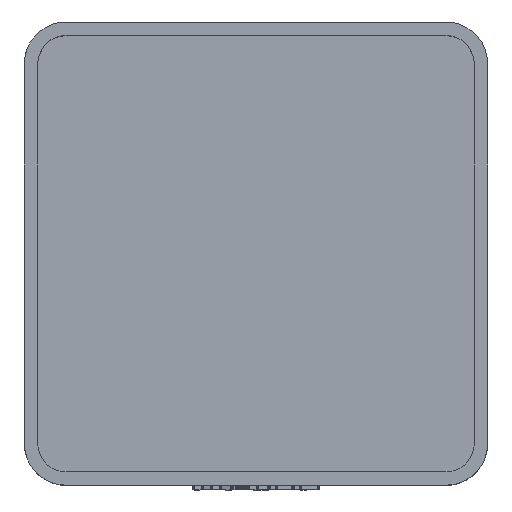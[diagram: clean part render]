
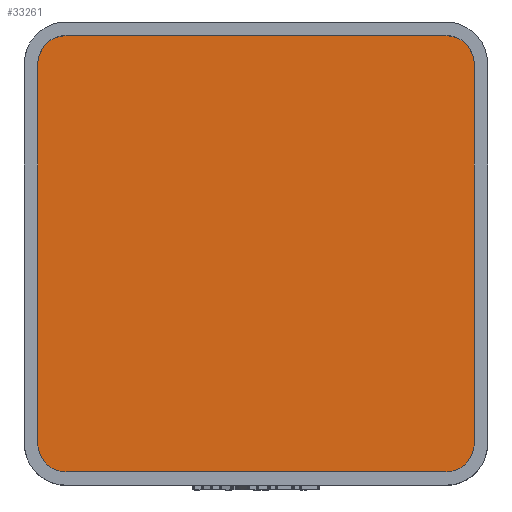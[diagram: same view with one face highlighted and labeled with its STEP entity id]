
A CAD part, top view. The second image highlights one B-rep face of the part: STEP entity #33261.
In plain terms, the highlighted planar face has unit normal (0, 0, 1).
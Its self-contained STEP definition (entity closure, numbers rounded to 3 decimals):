
#1442 = PLANE('',#1443);
#1443 = AXIS2_PLACEMENT_3D('',#1444,#1445,#1446);
#1444 = CARTESIAN_POINT('',(-19.55,-17.,4.75));
#1445 = DIRECTION('',(-1.,0.,0.));
#1446 = DIRECTION('',(0.,1.,0.));
#1474 = CYLINDRICAL_SURFACE('',#1475,2.55);
#1475 = AXIS2_PLACEMENT_3D('',#1476,#1477,#1478);
#1476 = CARTESIAN_POINT('',(-17.,17.,4.75));
#1477 = DIRECTION('',(-0.,-0.,-1.));
#1478 = DIRECTION('',(1.,0.,0.));
#1501 = PLANE('',#1502);
#1502 = AXIS2_PLACEMENT_3D('',#1503,#1504,#1505);
#1503 = CARTESIAN_POINT('',(-17.,19.55,4.75));
#1504 = DIRECTION('',(0.,1.,0.));
#1505 = DIRECTION('',(1.,0.,0.));
#1533 = CYLINDRICAL_SURFACE('',#1534,2.55);
#1534 = AXIS2_PLACEMENT_3D('',#1535,#1536,#1537);
#1535 = CARTESIAN_POINT('',(17.,17.,4.75));
#1536 = DIRECTION('',(-0.,-0.,-1.));
#1537 = DIRECTION('',(1.,0.,0.));
#1560 = PLANE('',#1561);
#1561 = AXIS2_PLACEMENT_3D('',#1562,#1563,#1564);
#1562 = CARTESIAN_POINT('',(19.55,-17.,4.75));
#1563 = DIRECTION('',(-1.,0.,0.));
#1564 = DIRECTION('',(0.,1.,0.));
#1592 = CYLINDRICAL_SURFACE('',#1593,2.55);
#1593 = AXIS2_PLACEMENT_3D('',#1594,#1595,#1596);
#1594 = CARTESIAN_POINT('',(17.,-17.,4.75));
#1595 = DIRECTION('',(-0.,-0.,-1.));
#1596 = DIRECTION('',(1.,0.,0.));
#1619 = PLANE('',#1620);
#1620 = AXIS2_PLACEMENT_3D('',#1621,#1622,#1623);
#1621 = CARTESIAN_POINT('',(-17.,-19.55,4.75));
#1622 = DIRECTION('',(0.,1.,0.));
#1623 = DIRECTION('',(1.,0.,0.));
#1649 = CYLINDRICAL_SURFACE('',#1650,2.55);
#1650 = AXIS2_PLACEMENT_3D('',#1651,#1652,#1653);
#1651 = CARTESIAN_POINT('',(-17.,-17.,4.75));
#1652 = DIRECTION('',(-0.,-0.,-1.));
#1653 = DIRECTION('',(1.,0.,0.));
#12553 = EDGE_CURVE('',#12554,#12556,#12558,.T.);
#12554 = VERTEX_POINT('',#12555);
#12555 = CARTESIAN_POINT('',(-19.55,-17.,4.75));
#12556 = VERTEX_POINT('',#12557);
#12557 = CARTESIAN_POINT('',(-19.55,17.,4.75));
#12558 = SURFACE_CURVE('',#12559,(#12563,#12570),.PCURVE_S1.);
#12559 = LINE('',#12560,#12561);
#12560 = CARTESIAN_POINT('',(-19.55,0.,4.75));
#12561 = VECTOR('',#12562,1.);
#12562 = DIRECTION('',(0.,1.,0.));
#12563 = PCURVE('',#1442,#12564);
#12564 = DEFINITIONAL_REPRESENTATION('',(#12565),#12569);
#12565 = LINE('',#12566,#12567);
#12566 = CARTESIAN_POINT('',(17.,0.));
#12567 = VECTOR('',#12568,1.);
#12568 = DIRECTION('',(1.,0.));
#12569 = ( GEOMETRIC_REPRESENTATION_CONTEXT(2) 
PARAMETRIC_REPRESENTATION_CONTEXT() REPRESENTATION_CONTEXT('2D SPACE',''
  ) );
#12570 = PCURVE('',#12571,#12576);
#12571 = PLANE('',#12572);
#12572 = AXIS2_PLACEMENT_3D('',#12573,#12574,#12575);
#12573 = CARTESIAN_POINT('',(0.,0.,4.75
    ));
#12574 = DIRECTION('',(0.,0.,1.));
#12575 = DIRECTION('',(1.,0.,-0.));
#12576 = DEFINITIONAL_REPRESENTATION('',(#12577),#12581);
#12577 = LINE('',#12578,#12579);
#12578 = CARTESIAN_POINT('',(-19.55,0.));
#12579 = VECTOR('',#12580,1.);
#12580 = DIRECTION('',(0.,1.));
#12581 = ( GEOMETRIC_REPRESENTATION_CONTEXT(2) 
PARAMETRIC_REPRESENTATION_CONTEXT() REPRESENTATION_CONTEXT('2D SPACE',''
  ) );
#12629 = EDGE_CURVE('',#12554,#12630,#12632,.T.);
#12630 = VERTEX_POINT('',#12631);
#12631 = CARTESIAN_POINT('',(-17.,-19.55,4.75));
#12632 = SURFACE_CURVE('',#12633,(#12638,#12645),.PCURVE_S1.);
#12633 = CIRCLE('',#12634,2.55);
#12634 = AXIS2_PLACEMENT_3D('',#12635,#12636,#12637);
#12635 = CARTESIAN_POINT('',(-17.,-17.,4.75));
#12636 = DIRECTION('',(0.,0.,1.));
#12637 = DIRECTION('',(1.,0.,0.));
#12638 = PCURVE('',#1649,#12639);
#12639 = DEFINITIONAL_REPRESENTATION('',(#12640),#12644);
#12640 = LINE('',#12641,#12642);
#12641 = CARTESIAN_POINT('',(-0.,0.));
#12642 = VECTOR('',#12643,1.);
#12643 = DIRECTION('',(-1.,0.));
#12644 = ( GEOMETRIC_REPRESENTATION_CONTEXT(2) 
PARAMETRIC_REPRESENTATION_CONTEXT() REPRESENTATION_CONTEXT('2D SPACE',''
  ) );
#12645 = PCURVE('',#12571,#12646);
#12646 = DEFINITIONAL_REPRESENTATION('',(#12647),#12651);
#12647 = CIRCLE('',#12648,2.55);
#12648 = AXIS2_PLACEMENT_2D('',#12649,#12650);
#12649 = CARTESIAN_POINT('',(-17.,-17.));
#12650 = DIRECTION('',(1.,0.));
#12651 = ( GEOMETRIC_REPRESENTATION_CONTEXT(2) 
PARAMETRIC_REPRESENTATION_CONTEXT() REPRESENTATION_CONTEXT('2D SPACE',''
  ) );
#12679 = EDGE_CURVE('',#12630,#12680,#12682,.T.);
#12680 = VERTEX_POINT('',#12681);
#12681 = CARTESIAN_POINT('',(17.,-19.55,4.75));
#12682 = SURFACE_CURVE('',#12683,(#12687,#12694),.PCURVE_S1.);
#12683 = LINE('',#12684,#12685);
#12684 = CARTESIAN_POINT('',(0.,-19.55,4.75));
#12685 = VECTOR('',#12686,1.);
#12686 = DIRECTION('',(1.,0.,0.));
#12687 = PCURVE('',#1619,#12688);
#12688 = DEFINITIONAL_REPRESENTATION('',(#12689),#12693);
#12689 = LINE('',#12690,#12691);
#12690 = CARTESIAN_POINT('',(17.,0.));
#12691 = VECTOR('',#12692,1.);
#12692 = DIRECTION('',(1.,0.));
#12693 = ( GEOMETRIC_REPRESENTATION_CONTEXT(2) 
PARAMETRIC_REPRESENTATION_CONTEXT() REPRESENTATION_CONTEXT('2D SPACE',''
  ) );
#12694 = PCURVE('',#12571,#12695);
#12695 = DEFINITIONAL_REPRESENTATION('',(#12696),#12700);
#12696 = LINE('',#12697,#12698);
#12697 = CARTESIAN_POINT('',(0.,-19.55));
#12698 = VECTOR('',#12699,1.);
#12699 = DIRECTION('',(1.,0.));
#12700 = ( GEOMETRIC_REPRESENTATION_CONTEXT(2) 
PARAMETRIC_REPRESENTATION_CONTEXT() REPRESENTATION_CONTEXT('2D SPACE',''
  ) );
#12728 = EDGE_CURVE('',#12680,#12729,#12731,.T.);
#12729 = VERTEX_POINT('',#12730);
#12730 = CARTESIAN_POINT('',(19.55,-17.,4.75));
#12731 = SURFACE_CURVE('',#12732,(#12737,#12744),.PCURVE_S1.);
#12732 = CIRCLE('',#12733,2.55);
#12733 = AXIS2_PLACEMENT_3D('',#12734,#12735,#12736);
#12734 = CARTESIAN_POINT('',(17.,-17.,4.75));
#12735 = DIRECTION('',(0.,0.,1.));
#12736 = DIRECTION('',(1.,0.,0.));
#12737 = PCURVE('',#1592,#12738);
#12738 = DEFINITIONAL_REPRESENTATION('',(#12739),#12743);
#12739 = LINE('',#12740,#12741);
#12740 = CARTESIAN_POINT('',(-0.,0.));
#12741 = VECTOR('',#12742,1.);
#12742 = DIRECTION('',(-1.,0.));
#12743 = ( GEOMETRIC_REPRESENTATION_CONTEXT(2) 
PARAMETRIC_REPRESENTATION_CONTEXT() REPRESENTATION_CONTEXT('2D SPACE',''
  ) );
#12744 = PCURVE('',#12571,#12745);
#12745 = DEFINITIONAL_REPRESENTATION('',(#12746),#12750);
#12746 = CIRCLE('',#12747,2.55);
#12747 = AXIS2_PLACEMENT_2D('',#12748,#12749);
#12748 = CARTESIAN_POINT('',(17.,-17.));
#12749 = DIRECTION('',(1.,0.));
#12750 = ( GEOMETRIC_REPRESENTATION_CONTEXT(2) 
PARAMETRIC_REPRESENTATION_CONTEXT() REPRESENTATION_CONTEXT('2D SPACE',''
  ) );
#12778 = EDGE_CURVE('',#12729,#12779,#12781,.T.);
#12779 = VERTEX_POINT('',#12780);
#12780 = CARTESIAN_POINT('',(19.55,17.,4.75));
#12781 = SURFACE_CURVE('',#12782,(#12786,#12793),.PCURVE_S1.);
#12782 = LINE('',#12783,#12784);
#12783 = CARTESIAN_POINT('',(19.55,0.,4.75));
#12784 = VECTOR('',#12785,1.);
#12785 = DIRECTION('',(0.,1.,0.));
#12786 = PCURVE('',#1560,#12787);
#12787 = DEFINITIONAL_REPRESENTATION('',(#12788),#12792);
#12788 = LINE('',#12789,#12790);
#12789 = CARTESIAN_POINT('',(17.,0.));
#12790 = VECTOR('',#12791,1.);
#12791 = DIRECTION('',(1.,0.));
#12792 = ( GEOMETRIC_REPRESENTATION_CONTEXT(2) 
PARAMETRIC_REPRESENTATION_CONTEXT() REPRESENTATION_CONTEXT('2D SPACE',''
  ) );
#12793 = PCURVE('',#12571,#12794);
#12794 = DEFINITIONAL_REPRESENTATION('',(#12795),#12799);
#12795 = LINE('',#12796,#12797);
#12796 = CARTESIAN_POINT('',(19.55,0.));
#12797 = VECTOR('',#12798,1.);
#12798 = DIRECTION('',(0.,1.));
#12799 = ( GEOMETRIC_REPRESENTATION_CONTEXT(2) 
PARAMETRIC_REPRESENTATION_CONTEXT() REPRESENTATION_CONTEXT('2D SPACE',''
  ) );
#12827 = EDGE_CURVE('',#12779,#12828,#12830,.T.);
#12828 = VERTEX_POINT('',#12829);
#12829 = CARTESIAN_POINT('',(17.,19.55,4.75));
#12830 = SURFACE_CURVE('',#12831,(#12836,#12843),.PCURVE_S1.);
#12831 = CIRCLE('',#12832,2.55);
#12832 = AXIS2_PLACEMENT_3D('',#12833,#12834,#12835);
#12833 = CARTESIAN_POINT('',(17.,17.,4.75));
#12834 = DIRECTION('',(0.,0.,1.));
#12835 = DIRECTION('',(1.,0.,0.));
#12836 = PCURVE('',#1533,#12837);
#12837 = DEFINITIONAL_REPRESENTATION('',(#12838),#12842);
#12838 = LINE('',#12839,#12840);
#12839 = CARTESIAN_POINT('',(-0.,0.));
#12840 = VECTOR('',#12841,1.);
#12841 = DIRECTION('',(-1.,0.));
#12842 = ( GEOMETRIC_REPRESENTATION_CONTEXT(2) 
PARAMETRIC_REPRESENTATION_CONTEXT() REPRESENTATION_CONTEXT('2D SPACE',''
  ) );
#12843 = PCURVE('',#12571,#12844);
#12844 = DEFINITIONAL_REPRESENTATION('',(#12845),#12849);
#12845 = CIRCLE('',#12846,2.55);
#12846 = AXIS2_PLACEMENT_2D('',#12847,#12848);
#12847 = CARTESIAN_POINT('',(17.,17.));
#12848 = DIRECTION('',(1.,0.));
#12849 = ( GEOMETRIC_REPRESENTATION_CONTEXT(2) 
PARAMETRIC_REPRESENTATION_CONTEXT() REPRESENTATION_CONTEXT('2D SPACE',''
  ) );
#12877 = EDGE_CURVE('',#12878,#12828,#12880,.T.);
#12878 = VERTEX_POINT('',#12879);
#12879 = CARTESIAN_POINT('',(-17.,19.55,4.75));
#12880 = SURFACE_CURVE('',#12881,(#12885,#12892),.PCURVE_S1.);
#12881 = LINE('',#12882,#12883);
#12882 = CARTESIAN_POINT('',(0.,19.55,4.75));
#12883 = VECTOR('',#12884,1.);
#12884 = DIRECTION('',(1.,0.,0.));
#12885 = PCURVE('',#1501,#12886);
#12886 = DEFINITIONAL_REPRESENTATION('',(#12887),#12891);
#12887 = LINE('',#12888,#12889);
#12888 = CARTESIAN_POINT('',(17.,0.));
#12889 = VECTOR('',#12890,1.);
#12890 = DIRECTION('',(1.,0.));
#12891 = ( GEOMETRIC_REPRESENTATION_CONTEXT(2) 
PARAMETRIC_REPRESENTATION_CONTEXT() REPRESENTATION_CONTEXT('2D SPACE',''
  ) );
#12892 = PCURVE('',#12571,#12893);
#12893 = DEFINITIONAL_REPRESENTATION('',(#12894),#12898);
#12894 = LINE('',#12895,#12896);
#12895 = CARTESIAN_POINT('',(0.,19.55));
#12896 = VECTOR('',#12897,1.);
#12897 = DIRECTION('',(1.,0.));
#12898 = ( GEOMETRIC_REPRESENTATION_CONTEXT(2) 
PARAMETRIC_REPRESENTATION_CONTEXT() REPRESENTATION_CONTEXT('2D SPACE',''
  ) );
#12926 = EDGE_CURVE('',#12878,#12556,#12927,.T.);
#12927 = SURFACE_CURVE('',#12928,(#12933,#12940),.PCURVE_S1.);
#12928 = CIRCLE('',#12929,2.55);
#12929 = AXIS2_PLACEMENT_3D('',#12930,#12931,#12932);
#12930 = CARTESIAN_POINT('',(-17.,17.,4.75));
#12931 = DIRECTION('',(0.,0.,1.));
#12932 = DIRECTION('',(1.,0.,0.));
#12933 = PCURVE('',#1474,#12934);
#12934 = DEFINITIONAL_REPRESENTATION('',(#12935),#12939);
#12935 = LINE('',#12936,#12937);
#12936 = CARTESIAN_POINT('',(-0.,0.));
#12937 = VECTOR('',#12938,1.);
#12938 = DIRECTION('',(-1.,0.));
#12939 = ( GEOMETRIC_REPRESENTATION_CONTEXT(2) 
PARAMETRIC_REPRESENTATION_CONTEXT() REPRESENTATION_CONTEXT('2D SPACE',''
  ) );
#12940 = PCURVE('',#12571,#12941);
#12941 = DEFINITIONAL_REPRESENTATION('',(#12942),#12946);
#12942 = CIRCLE('',#12943,2.55);
#12943 = AXIS2_PLACEMENT_2D('',#12944,#12945);
#12944 = CARTESIAN_POINT('',(-17.,17.));
#12945 = DIRECTION('',(1.,0.));
#12946 = ( GEOMETRIC_REPRESENTATION_CONTEXT(2) 
PARAMETRIC_REPRESENTATION_CONTEXT() REPRESENTATION_CONTEXT('2D SPACE',''
  ) );
#33261 = ADVANCED_FACE('',(#33262),#12571,.T.);
#33262 = FACE_BOUND('',#33263,.T.);
#33263 = EDGE_LOOP('',(#33264,#33265,#33266,#33267,#33268,#33269,#33270,
    #33271));
#33264 = ORIENTED_EDGE('',*,*,#12553,.F.);
#33265 = ORIENTED_EDGE('',*,*,#12629,.T.);
#33266 = ORIENTED_EDGE('',*,*,#12679,.T.);
#33267 = ORIENTED_EDGE('',*,*,#12728,.T.);
#33268 = ORIENTED_EDGE('',*,*,#12778,.T.);
#33269 = ORIENTED_EDGE('',*,*,#12827,.T.);
#33270 = ORIENTED_EDGE('',*,*,#12877,.F.);
#33271 = ORIENTED_EDGE('',*,*,#12926,.T.);
